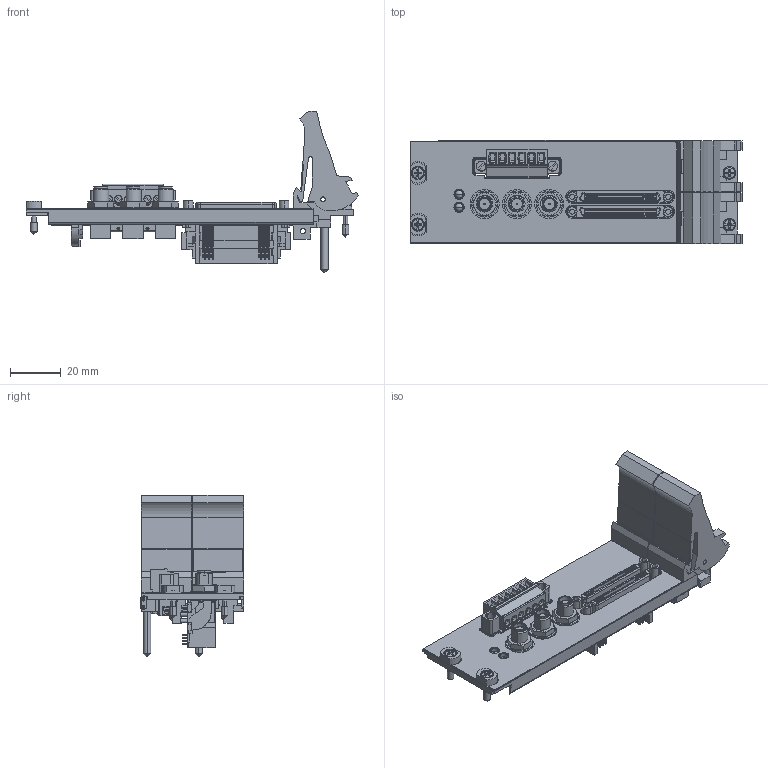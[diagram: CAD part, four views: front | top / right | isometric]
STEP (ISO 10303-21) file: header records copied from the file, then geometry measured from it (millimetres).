
FILE_DESCRIPTION((''),'2;1');
FILE_NAME('CU_PXIE-6556','2011-07-28T',('jjorden'),(''),'PRO/ENGINEER BY PARAMETRIC TECHNOLOGY CORPORATION, 2010230','PRO/ENGINEER BY PARAMETRIC TECHNOLOGY CORPORATION, 2010230','');
FILE_SCHEMA(('CONFIG_CONTROL_DESIGN'));
Products named in the file (1): CU_PXIE-6556
Bounding box: 130.5 x 40.61 x 63.53 mm (x, y, z)
Volume: 29220.9 mm3; surface area: 42406.1 mm2
Topology: 4 solids, 20 shells, 5271 faces, 14254 edges, 9087 vertices
Faces by surface type: plane 3622, cylinder 1173, bspline 170, cone 156, torus 94, sphere 36, extrusion 20
Entity records: 179279 total; most frequent: CARTESIAN_POINT 47617, ORIENTED_EDGE 28204, DIRECTION 25624, EDGE_CURVE 14226, VECTOR 10576, LINE 10556, VERTEX_POINT 9087, AXIS2_PLACEMENT_3D 7524
